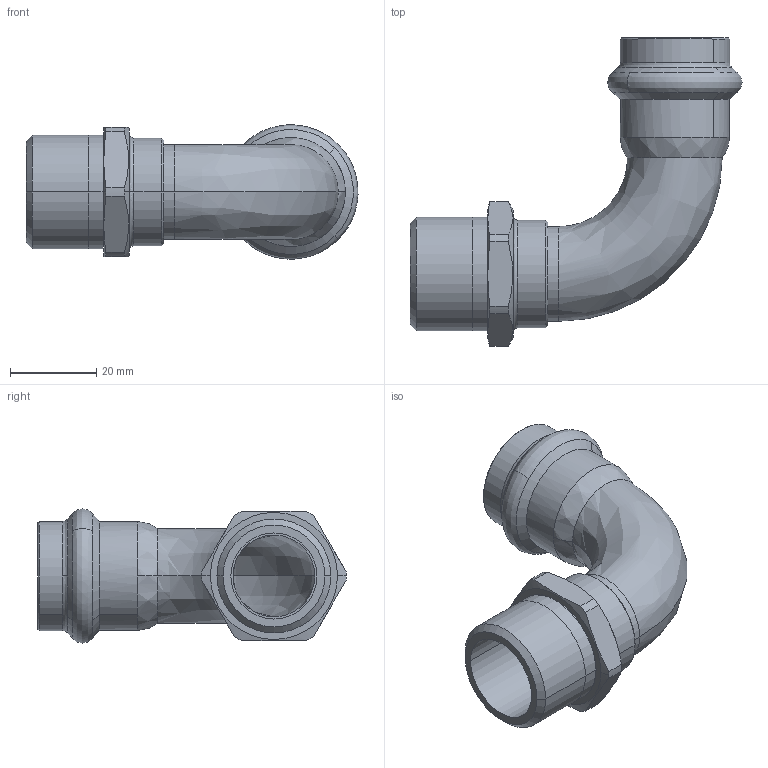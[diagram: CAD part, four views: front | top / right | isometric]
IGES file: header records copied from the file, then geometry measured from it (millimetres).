
Start section: Elysium IGES Interface
Global section: file name: C:\3d modellen sudo\C-Pr VP\SP8092GV\8092GVW2234.igs; native system: CoCreate Modeling 17.00A  17-Jun-2010; preprocessor: CoCreate IGES_3D V2.2; author: Unknown; organization: Unknown; date: 20130305.112347; units: millimetre
Bounding box: 77.09 x 71.64 x 31.18 mm (x, y, z)
Volume: 17397.1 mm3; surface area: 16101.9 mm2
Topology: 1 solids, 1 shells, 86 faces, 204 edges, 126 vertices
Faces by surface type: bspline 86
